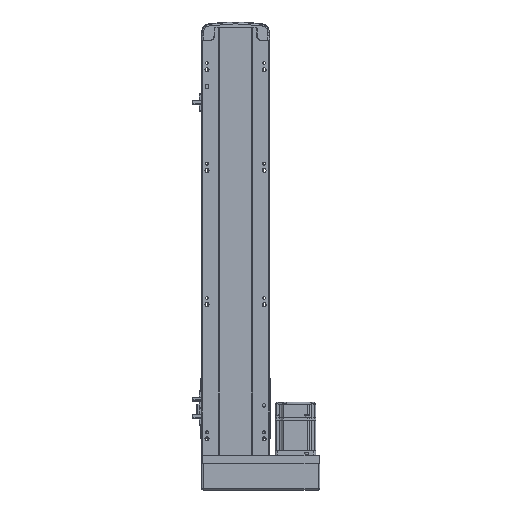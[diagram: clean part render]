
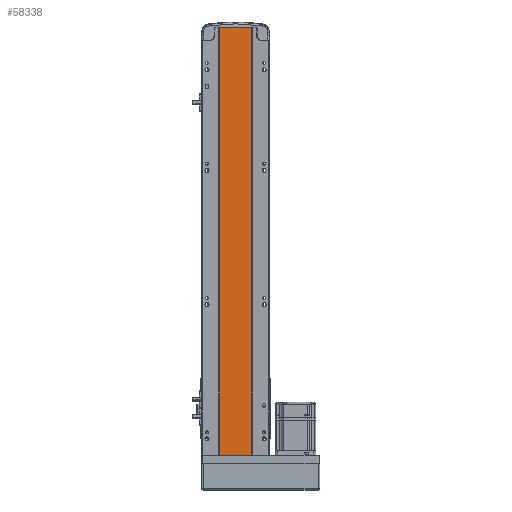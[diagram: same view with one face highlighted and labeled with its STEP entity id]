
A CAD part, front view. The second image highlights one B-rep face of the part: STEP entity #58338.
In plain terms, the highlighted planar face has unit normal (0, -1, 0).
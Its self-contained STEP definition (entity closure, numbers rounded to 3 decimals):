
#3906 = VERTEX_POINT ( 'NONE', #50232 ) ;
#4919 = EDGE_CURVE ( 'NONE', #27614, #39127, #17191, .T. ) ;
#7568 = ORIENTED_EDGE ( 'NONE', *, *, #9465, .F. ) ;
#7662 = EDGE_CURVE ( 'NONE', #39127, #35315, #17627, .T. ) ;
#9465 = EDGE_CURVE ( 'NONE', #3906, #35315, #35416, .T. ) ;
#10595 = ORIENTED_EDGE ( 'NONE', *, *, #4919, .T. ) ;
#10687 = AXIS2_PLACEMENT_3D ( 'NONE', #51818, #24082, #56017 ) ;
#10941 = ORIENTED_EDGE ( 'NONE', *, *, #40143, .F. ) ;
#11111 = VECTOR ( 'NONE', #13398, 1000. ) ;
#13398 = DIRECTION ( 'NONE',  ( 0., 0., -1. ) ) ;
#17191 = LINE ( 'NONE', #51971, #23584 ) ;
#17627 = LINE ( 'NONE', #57874, #26899 ) ;
#19964 = LINE ( 'NONE', #23735, #24260 ) ;
#23584 = VECTOR ( 'NONE', #33612, 1000. ) ;
#23735 = CARTESIAN_POINT ( 'NONE',  ( -24.5, 2., 637. ) ) ;
#24082 = DIRECTION ( 'NONE',  ( 0., 1., 0. ) ) ;
#24260 = VECTOR ( 'NONE', #32309, 1000. ) ;
#26899 = VECTOR ( 'NONE', #57475, 1000. ) ;
#27092 = CARTESIAN_POINT ( 'NONE',  ( -24.5, 2., 637. ) ) ;
#27614 = VERTEX_POINT ( 'NONE', #27092 ) ;
#32309 = DIRECTION ( 'NONE',  ( 1., 0., 0. ) ) ;
#33612 = DIRECTION ( 'NONE',  ( 0., 0., -1. ) ) ;
#35059 = CARTESIAN_POINT ( 'NONE',  ( 24.5, 2., 0. ) ) ;
#35315 = VERTEX_POINT ( 'NONE', #35059 ) ;
#35416 = LINE ( 'NONE', #49715, #11111 ) ;
#39127 = VERTEX_POINT ( 'NONE', #44923 ) ;
#40143 = EDGE_CURVE ( 'NONE', #27614, #3906, #19964, .T. ) ;
#41807 = ORIENTED_EDGE ( 'NONE', *, *, #7662, .T. ) ;
#44028 = FACE_OUTER_BOUND ( 'NONE', #50566, .T. ) ;
#44923 = CARTESIAN_POINT ( 'NONE',  ( -24.5, 2., 0. ) ) ;
#49715 = CARTESIAN_POINT ( 'NONE',  ( 24.5, 2., 637. ) ) ;
#50232 = CARTESIAN_POINT ( 'NONE',  ( 24.5, 2., 637. ) ) ;
#50566 = EDGE_LOOP ( 'NONE', ( #41807, #7568, #10941, #10595 ) ) ;
#51038 = PLANE ( 'NONE',  #10687 ) ;
#51818 = CARTESIAN_POINT ( 'NONE',  ( 0., 2., 637. ) ) ;
#51971 = CARTESIAN_POINT ( 'NONE',  ( -24.5, 2., 637. ) ) ;
#56017 = DIRECTION ( 'NONE',  ( 0., 0., 1. ) ) ;
#57475 = DIRECTION ( 'NONE',  ( 1., 0., 0. ) ) ;
#57874 = CARTESIAN_POINT ( 'NONE',  ( 0., 2., 0. ) ) ;
#58338 = ADVANCED_FACE ( 'NONE', ( #44028 ), #51038, .F. ) ;
